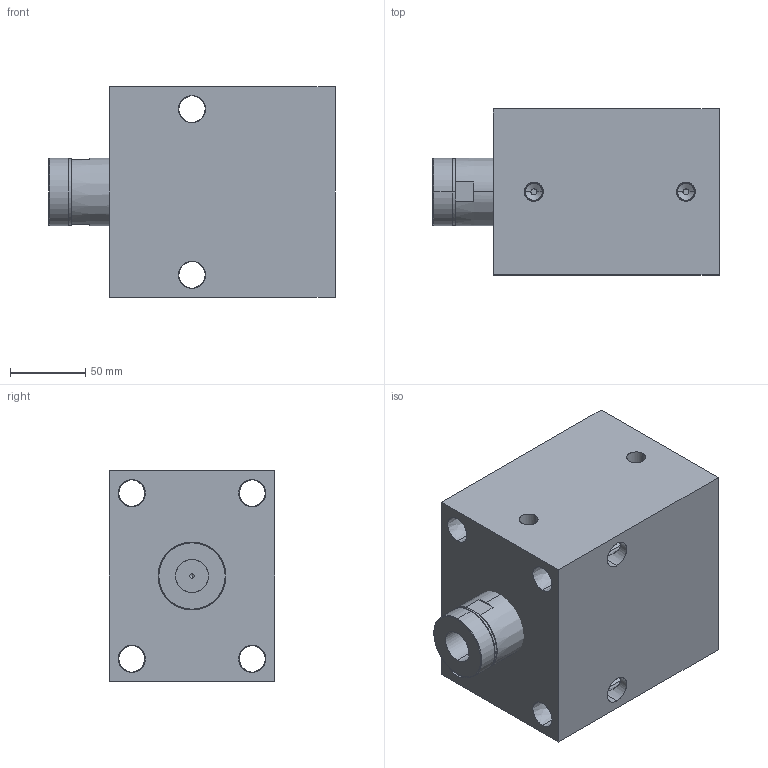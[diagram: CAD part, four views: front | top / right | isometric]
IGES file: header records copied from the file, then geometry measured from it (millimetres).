
Start section: SolidWorks IGES file using analytic representation for surfaces
Global section: file name: C:\Documents and Settings\rajib\Desktop\Rajib\BLOCK CYLINDER HYDRAULIC\0701-0704\IGS 0701-0708\0702.IGS; native system: SolidWorks 2007; preprocessor: SolidWorks 2007; author: rajib; date: 110121.160510; units: millimetre
Bounding box: 190 x 110 x 140 mm (x, y, z)
Surface area: 165833.9 mm2 (no closed solid volume)
Topology: 0 solids, 0 shells, 80 faces, 1904 edges, 1902 vertices
Faces by surface type: revolution 58, bspline 22
